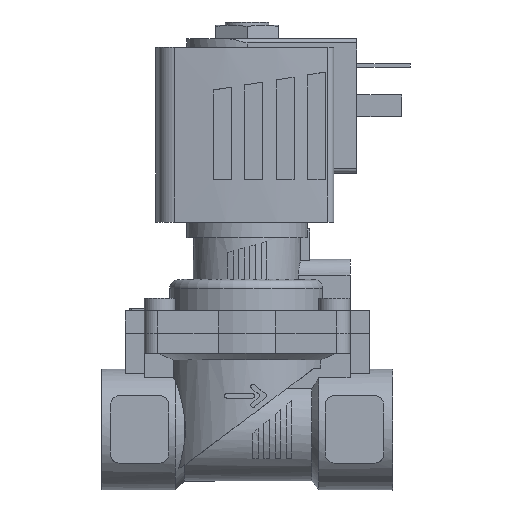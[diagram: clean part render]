
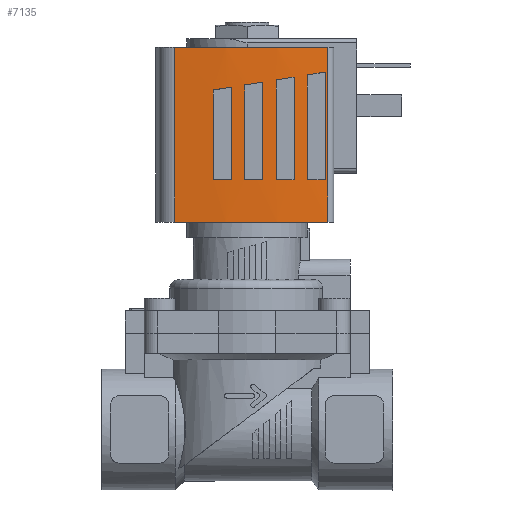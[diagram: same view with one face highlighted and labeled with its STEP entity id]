
A CAD part, top view. The second image highlights one B-rep face of the part: STEP entity #7135.
In plain terms, the highlighted cylindrical face has radius 130 mm (diameter 260 mm), a partial arc.
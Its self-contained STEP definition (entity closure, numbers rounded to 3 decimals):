
#92=ELLIPSE('',#7729,131.653,130.);
#93=ELLIPSE('',#7732,131.653,130.);
#94=ELLIPSE('',#7734,131.653,130.);
#95=ELLIPSE('',#7736,131.653,130.);
#245=CYLINDRICAL_SURFACE('',#7728,130.);
#652=LINE('',#11161,#1174);
#666=LINE('',#11232,#1188);
#667=LINE('',#11236,#1189);
#668=LINE('',#11237,#1190);
#669=LINE('',#11242,#1191);
#670=LINE('',#11247,#1192);
#671=LINE('',#11251,#1193);
#672=LINE('',#11255,#1194);
#673=LINE('',#11259,#1195);
#674=LINE('',#11263,#1196);
#1174=VECTOR('',#9179,1000.);
#1188=VECTOR('',#9239,1000.);
#1189=VECTOR('',#9242,1000.);
#1190=VECTOR('',#9243,1000.);
#1191=VECTOR('',#9246,1000.);
#1192=VECTOR('',#9251,1000.);
#1193=VECTOR('',#9254,1000.);
#1194=VECTOR('',#9257,1000.);
#1195=VECTOR('',#9260,1000.);
#1196=VECTOR('',#9263,1000.);
#2637=ORIENTED_EDGE('',*,*,#3700,.F.);
#2638=ORIENTED_EDGE('',*,*,#3701,.F.);
#2639=ORIENTED_EDGE('',*,*,#3702,.F.);
#2640=ORIENTED_EDGE('',*,*,#3703,.F.);
#2641=ORIENTED_EDGE('',*,*,#3704,.F.);
#2642=ORIENTED_EDGE('',*,*,#3705,.F.);
#2643=ORIENTED_EDGE('',*,*,#3706,.F.);
#2644=ORIENTED_EDGE('',*,*,#3707,.F.);
#2645=ORIENTED_EDGE('',*,*,#3708,.T.);
#2646=ORIENTED_EDGE('',*,*,#3667,.F.);
#2647=ORIENTED_EDGE('',*,*,#3680,.F.);
#2648=ORIENTED_EDGE('',*,*,#3709,.T.);
#2649=ORIENTED_EDGE('',*,*,#3710,.F.);
#2650=ORIENTED_EDGE('',*,*,#3711,.F.);
#2651=ORIENTED_EDGE('',*,*,#3712,.F.);
#2652=ORIENTED_EDGE('',*,*,#3713,.F.);
#2653=ORIENTED_EDGE('',*,*,#3714,.F.);
#2654=ORIENTED_EDGE('',*,*,#3715,.F.);
#2655=ORIENTED_EDGE('',*,*,#3716,.F.);
#2656=ORIENTED_EDGE('',*,*,#3717,.F.);
#3667=EDGE_CURVE('',#4303,#4304,#652,.T.);
#3680=EDGE_CURVE('',#4314,#4303,#4603,.T.);
#3700=EDGE_CURVE('',#4332,#4333,#92,.T.);
#3701=EDGE_CURVE('',#4334,#4332,#666,.F.);
#3702=EDGE_CURVE('',#4335,#4334,#4609,.T.);
#3703=EDGE_CURVE('',#4333,#4335,#667,.T.);
#3704=EDGE_CURVE('',#4336,#4337,#668,.F.);
#3705=EDGE_CURVE('',#4338,#4336,#4610,.T.);
#3706=EDGE_CURVE('',#4339,#4338,#669,.T.);
#3707=EDGE_CURVE('',#4337,#4339,#93,.T.);
#3708=EDGE_CURVE('',#4340,#4304,#4611,.T.);
#3709=EDGE_CURVE('',#4314,#4340,#670,.T.);
#3710=EDGE_CURVE('',#4341,#4342,#94,.T.);
#3711=EDGE_CURVE('',#4343,#4341,#671,.F.);
#3712=EDGE_CURVE('',#4344,#4343,#4612,.T.);
#3713=EDGE_CURVE('',#4342,#4344,#672,.T.);
#3714=EDGE_CURVE('',#4345,#4346,#95,.T.);
#3715=EDGE_CURVE('',#4347,#4345,#673,.F.);
#3716=EDGE_CURVE('',#4348,#4347,#4613,.T.);
#3717=EDGE_CURVE('',#4346,#4348,#674,.T.);
#4303=VERTEX_POINT('',#11160);
#4304=VERTEX_POINT('',#11162);
#4314=VERTEX_POINT('',#11189);
#4332=VERTEX_POINT('',#11230);
#4333=VERTEX_POINT('',#11231);
#4334=VERTEX_POINT('',#11233);
#4335=VERTEX_POINT('',#11235);
#4336=VERTEX_POINT('',#11238);
#4337=VERTEX_POINT('',#11239);
#4338=VERTEX_POINT('',#11241);
#4339=VERTEX_POINT('',#11243);
#4340=VERTEX_POINT('',#11246);
#4341=VERTEX_POINT('',#11249);
#4342=VERTEX_POINT('',#11250);
#4343=VERTEX_POINT('',#11252);
#4344=VERTEX_POINT('',#11254);
#4345=VERTEX_POINT('',#11257);
#4346=VERTEX_POINT('',#11258);
#4347=VERTEX_POINT('',#11260);
#4348=VERTEX_POINT('',#11262);
#4603=CIRCLE('',#7717,130.);
#4609=CIRCLE('',#7730,130.);
#4610=CIRCLE('',#7731,130.);
#4611=CIRCLE('',#7733,130.);
#4612=CIRCLE('',#7735,130.);
#4613=CIRCLE('',#7737,130.);
#4925=EDGE_LOOP('',(#2637,#2638,#2639,#2640));
#4926=EDGE_LOOP('',(#2641,#2642,#2643,#2644));
#4927=EDGE_LOOP('',(#2645,#2646,#2647,#2648));
#4928=EDGE_LOOP('',(#2649,#2650,#2651,#2652));
#4929=EDGE_LOOP('',(#2653,#2654,#2655,#2656));
#5315=FACE_BOUND('',#4925,.T.);
#5316=FACE_BOUND('',#4926,.T.);
#5317=FACE_BOUND('',#4927,.T.);
#5318=FACE_BOUND('',#4928,.T.);
#5319=FACE_BOUND('',#4929,.T.);
#7135=ADVANCED_FACE('',(#5315,#5316,#5317,#5318,#5319),#245,.T.);
#7717=AXIS2_PLACEMENT_3D('',#11190,#9203,#9204);
#7728=AXIS2_PLACEMENT_3D('',#11228,#9235,#9236);
#7729=AXIS2_PLACEMENT_3D('',#11229,#9237,#9238);
#7730=AXIS2_PLACEMENT_3D('',#11234,#9240,#9241);
#7731=AXIS2_PLACEMENT_3D('',#11240,#9244,#9245);
#7732=AXIS2_PLACEMENT_3D('',#11244,#9247,#9248);
#7733=AXIS2_PLACEMENT_3D('',#11245,#9249,#9250);
#7734=AXIS2_PLACEMENT_3D('',#11248,#9252,#9253);
#7735=AXIS2_PLACEMENT_3D('',#11253,#9255,#9256);
#7736=AXIS2_PLACEMENT_3D('',#11256,#9258,#9259);
#7737=AXIS2_PLACEMENT_3D('',#11261,#9261,#9262);
#9179=DIRECTION('',(0.,-1.,0.));
#9203=DIRECTION('',(0.,1.,0.));
#9204=DIRECTION('',(1.,0.,0.));
#9235=DIRECTION('',(0.,-1.,0.));
#9236=DIRECTION('',(0.,0.,-1.));
#9237=DIRECTION('',(-0.158,-0.987,0.));
#9238=DIRECTION('',(0.987,-0.158,0.));
#9239=DIRECTION('',(0.,-1.,0.));
#9240=DIRECTION('',(0.,1.,0.));
#9241=DIRECTION('',(0.,0.,1.));
#9242=DIRECTION('',(0.,-1.,0.));
#9243=DIRECTION('',(0.,-1.,0.));
#9244=DIRECTION('',(0.,1.,0.));
#9245=DIRECTION('',(0.,0.,1.));
#9246=DIRECTION('',(0.,-1.,0.));
#9247=DIRECTION('',(-0.158,-0.987,0.));
#9248=DIRECTION('',(0.987,-0.158,0.));
#9249=DIRECTION('',(0.,1.,0.));
#9250=DIRECTION('',(1.,0.,0.));
#9251=DIRECTION('',(0.,-1.,0.));
#9252=DIRECTION('',(-0.158,-0.987,0.));
#9253=DIRECTION('',(0.987,-0.158,0.));
#9254=DIRECTION('',(0.,-1.,0.));
#9255=DIRECTION('',(0.,1.,0.));
#9256=DIRECTION('',(0.,0.,1.));
#9257=DIRECTION('',(0.,-1.,0.));
#9258=DIRECTION('',(-0.158,-0.987,0.));
#9259=DIRECTION('',(0.987,-0.158,0.));
#9260=DIRECTION('',(0.,-1.,0.));
#9261=DIRECTION('',(0.,1.,0.));
#9262=DIRECTION('',(0.,0.,1.));
#9263=DIRECTION('',(0.,-1.,0.));
#11160=CARTESIAN_POINT('',(-18.071,13.,-14.738));
#11161=CARTESIAN_POINT('',(-18.071,13.,-14.738));
#11162=CARTESIAN_POINT('',(-18.071,-26.,-14.738));
#11189=CARTESIAN_POINT('',(16.195,13.,-14.987));
#11190=CARTESIAN_POINT('',(0.,13.,114.));
#11228=CARTESIAN_POINT('',(0.,13.,114.));
#11229=CARTESIAN_POINT('',(0.,4.7,114.));
#11230=CARTESIAN_POINT('',(-3.5,5.26,-15.953));
#11231=CARTESIAN_POINT('',(0.5,4.62,-15.999));
#11232=CARTESIAN_POINT('',(-3.5,13.,-15.953));
#11233=CARTESIAN_POINT('',(-3.5,-16.5,-15.953));
#11234=CARTESIAN_POINT('',(0.,-16.5,114.));
#11235=CARTESIAN_POINT('',(0.5,-16.5,-15.999));
#11236=CARTESIAN_POINT('',(0.5,13.,-15.999));
#11237=CARTESIAN_POINT('',(-17.5,13.,-14.817));
#11238=CARTESIAN_POINT('',(-17.5,-16.5,-14.817));
#11239=CARTESIAN_POINT('',(-17.5,7.5,-14.817));
#11240=CARTESIAN_POINT('',(0.,-16.5,114.));
#11241=CARTESIAN_POINT('',(-13.5,-16.5,-15.297));
#11242=CARTESIAN_POINT('',(-13.5,13.,-15.297));
#11243=CARTESIAN_POINT('',(-13.5,6.86,-15.297));
#11244=CARTESIAN_POINT('',(0.,4.7,114.));
#11245=CARTESIAN_POINT('',(0.,-26.,114.));
#11246=CARTESIAN_POINT('',(16.195,-26.,-14.987));
#11247=CARTESIAN_POINT('',(16.195,13.,-14.987));
#11248=CARTESIAN_POINT('',(0.,4.7,114.));
#11249=CARTESIAN_POINT('',(-10.5,6.38,-15.575));
#11250=CARTESIAN_POINT('',(-6.5,5.74,-15.837));
#11251=CARTESIAN_POINT('',(-10.5,13.,-15.575));
#11252=CARTESIAN_POINT('',(-10.5,-16.5,-15.575));
#11253=CARTESIAN_POINT('',(0.,-16.5,114.));
#11254=CARTESIAN_POINT('',(-6.5,-16.5,-15.837));
#11255=CARTESIAN_POINT('',(-6.5,13.,-15.837));
#11256=CARTESIAN_POINT('',(0.,4.7,114.));
#11257=CARTESIAN_POINT('',(3.5,4.14,-15.953));
#11258=CARTESIAN_POINT('',(7.5,3.5,-15.783));
#11259=CARTESIAN_POINT('',(3.5,13.,-15.953));
#11260=CARTESIAN_POINT('',(3.5,-16.5,-15.953));
#11261=CARTESIAN_POINT('',(0.,-16.5,114.));
#11262=CARTESIAN_POINT('',(7.5,-16.5,-15.783));
#11263=CARTESIAN_POINT('',(7.5,13.,-15.783));
